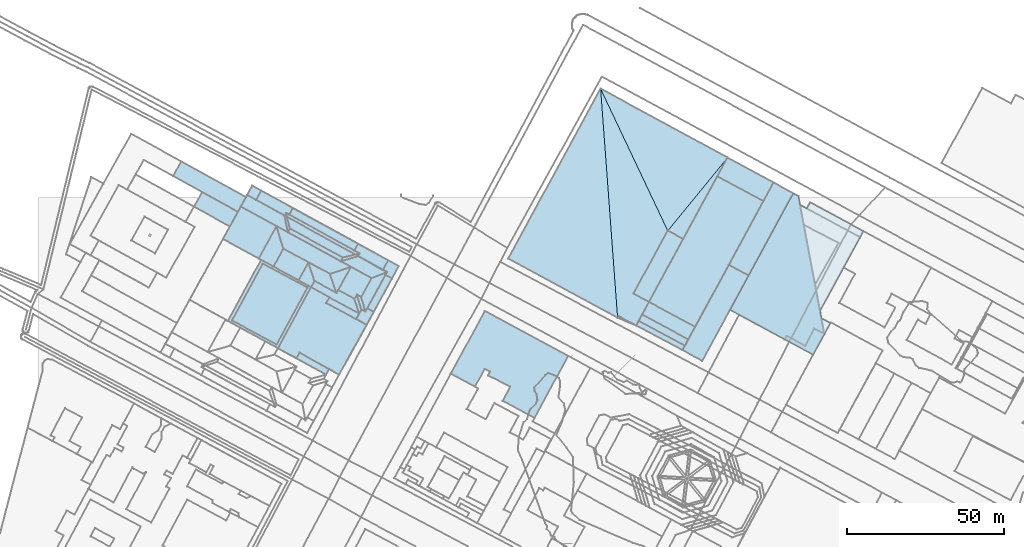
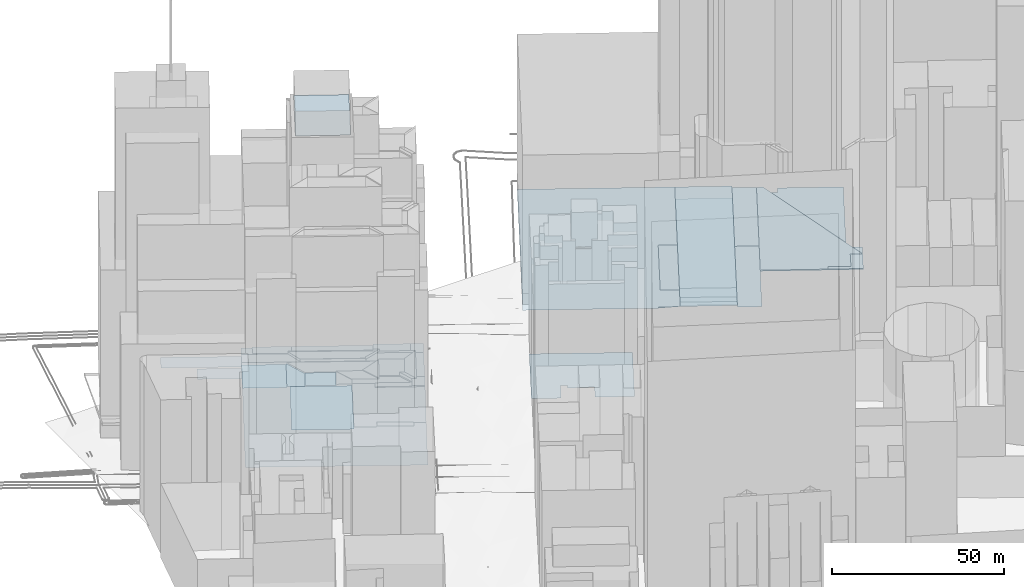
# Not in any storey, part 12 of 80: 45 footings.
"""IFC4 building model written with IfcOpenShell, lengths in metres."""

from ifc_helpers import new_model, si_unit, frame, origin_with_axes, place, context, subcontext, project, spatial, polygons, element, save


model = new_model("IFC4")

# Units and contexts
model_context = context("Model", 3, precision=1e-05, world=origin_with_axes())
body_context = subcontext(model_context, "Body", "Model", "MODEL_VIEW")
ifc_project = project(units=[si_unit("AREAUNIT", "SQUARE_METRE"), si_unit("LENGTHUNIT", "METRE")], contexts=[model_context])

# Sites, building
site_1_placement = place(None, origin_with_axes())
site_1 = spatial("IfcSite", under=ifc_project, at=site_1_placement, Name="Topoexport Site")
site_2_placement = place(site_1_placement, origin_with_axes())
site_2 = spatial("IfcSite", under=site_1, at=site_2_placement, Name="TPX_BATIMENTS")
building_1_placement = place(site_2_placement, frame((219.6501998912, 358.1121317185, 21.8344391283), z_axis=(0.0, 0.0, 1.0), x_axis=(1.0, 0.0, 0.0)))
building_1 = spatial("IfcBuilding", under=site_2, at=building_1_placement, Name="Batiment 239", CompositionType="ELEMENT")

# Footing
footing_1_placement = place(None, frame((219.6501998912, 358.1121317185, 21.8344391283), z_axis=(0.0, 0.0, 1.0), x_axis=(1.0, 0.0, 0.0)))
element("IfcFooting", 1, at=footing_1_placement, inside=building_1, Name="Sol 0", context=body_context, shape_type="Tessellation", body=[
    polygons([(0.0, 0.0, 0.0), (6.2692645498, -3.4020859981, 0.0), (20.4756016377, 22.7535668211, 0.0), (14.1893424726, 26.1665450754, 0.0)], [[[2, 1, 4]], [[4, 3, 2]]]),
])

# Building
building_2_placement = place(site_2_placement, frame((237.4075822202, 334.4377302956, 21.8574343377), z_axis=(0.0, 0.0, 1.0), x_axis=(1.0, 0.0, 0.0)))
building_2 = spatial("IfcBuilding", under=site_2, at=building_2_placement, Name="Batiment 247", CompositionType="ELEMENT")

# Footing
footing_2_placement = place(None, frame((237.4075822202, 334.4377302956, 21.8574343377), z_axis=(0.0, 0.0, 1.0), x_axis=(1.0, 0.0, 0.0)))
element("IfcFooting", 2, at=footing_2_placement, inside=building_2, Name="Sol 0", context=body_context, shape_type="Tessellation", body=[
    polygons([(0.0, 0.0, 0.0), (9.0722546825, -4.8904699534, 0.0), (12.6339095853, 1.6902007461, 0.0), (9.4062271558, 3.4068039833, 0.0), (6.507259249, -2.0892360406, 0.0), (0.6119191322, 1.095140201, 0.0)], [[[2, 1, 6]], [[4, 3, 2]], [[2, 6, 5]], [[5, 4, 2]]]),
])

# Building
building_3_placement = place(site_2_placement, frame((220.0023122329, 343.8054149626, 21.493715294), z_axis=(0.0, 0.0, 1.0), x_axis=(1.0, 0.0, 0.0)))
building_3 = spatial("IfcBuilding", under=site_2, at=building_3_placement, Name="Batiment 248", CompositionType="ELEMENT")

# Footing
footing_3_placement = place(None, frame((220.0023122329, 343.8054149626, 21.493715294), z_axis=(0.0, 0.0, 1.0), x_axis=(1.0, 0.0, 0.0)))
element("IfcFooting", 3, at=footing_3_placement, inside=building_3, Name="Sol 0", context=body_context, shape_type="Tessellation", body=[
    polygons([(0.0, 0.0, 0.0), (26.4775246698, -14.2581546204, 0.0), (31.9063663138, -4.1918534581, 0.0), (29.1545647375, -2.74727068, 0.0), (28.6785615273, -0.2881071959, 0.0), (42.4133124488, 25.0405352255, 0.0), (25.5002002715, 34.1918411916, 0.0), (24.4257112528, 32.2253420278, 0.0), (22.3276907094, 33.344465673, 0.0), (21.8057455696, 36.1250606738, 0.0), (20.1234892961, 37.0602835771, 0.0)], [[[2, 1, 11]], [[4, 3, 2]], [[7, 6, 5]], [[11, 10, 9]], [[4, 2, 11]], [[8, 7, 5]], [[5, 4, 11]], [[9, 8, 5]], [[5, 11, 9]]]),
])

# Building
building_4_placement = place(site_2_placement, frame((220.0023122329, 343.8054149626, 21.8574343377), z_axis=(0.0, 0.0, 1.0), x_axis=(1.0, 0.0, 0.0)))
building_4 = spatial("IfcBuilding", under=site_2, at=building_4_placement, Name="Batiment 249", CompositionType="ELEMENT")

# Footing
footing_4_placement = place(None, frame((220.0023122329, 343.8054149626, 21.8574343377), z_axis=(0.0, 0.0, 1.0), x_axis=(1.0, 0.0, 0.0)))
element("IfcFooting", 4, at=footing_4_placement, inside=building_4, Name="Sol 0", context=body_context, shape_type="Tessellation", body=[
    polygons([(0.0, 0.0, 0.0), (17.4052699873, -9.367684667, 0.0), (18.0171891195, -8.272544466, 0.0), (23.9125292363, -11.4569207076, 0.0), (26.8114971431, -5.9608806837, 0.0), (30.0391795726, -7.6774839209, 0.0), (21.8057455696, 36.1250606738, 0.0), (20.1234892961, 37.0602835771, 0.0)], [[[2, 1, 8]], [[5, 4, 3]], [[7, 6, 5]], [[2, 8, 7]], [[7, 5, 3]], [[3, 2, 7]]]),
])

# Building
building_5_placement = place(site_2_placement, frame((194.2357723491, 346.2924328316, 22.8993147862), z_axis=(0.0, 0.0, 1.0), x_axis=(1.0, 0.0, 0.0)))
building_5 = spatial("IfcBuilding", under=site_2, at=building_5_placement, Name="Batiment 250", CompositionType="ELEMENT")

# Footing
footing_5_placement = place(None, frame((194.2357723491, 346.2924328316, 22.8993147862), z_axis=(0.0, 0.0, 1.0), x_axis=(1.0, 0.0, 0.0)))
element("IfcFooting", 5, at=footing_5_placement, inside=building_5, Name="Sol 0", context=body_context, shape_type="Tessellation", body=[
    polygons([(0.0, 0.0, 0.0), (14.695507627, -7.911555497, 0.0), (36.3976918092, 32.0425454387, 0.0), (21.7021083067, 39.9651582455, 0.0)], [[[2, 1, 4]], [[4, 3, 2]]]),
])

# Building
building_6_placement = place(site_2_placement, frame((189.3088417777, 348.9551990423, 22.410062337), z_axis=(0.0, 0.0, 1.0), x_axis=(1.0, 0.0, 0.0)))
building_6 = spatial("IfcBuilding", under=site_2, at=building_6_placement, Name="Batiment 251", CompositionType="ELEMENT")

# Footing
footing_6_placement = place(None, frame((189.3088417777, 348.9551990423, 22.410062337), z_axis=(0.0, 0.0, 1.0), x_axis=(1.0, 0.0, 0.0)))
element("IfcFooting", 6, at=footing_6_placement, inside=building_6, Name="Sol 0", context=body_context, shape_type="Tessellation", body=[
    polygons([(0.0, 0.0, 0.0), (4.9269305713, -2.6627662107, 0.0), (0.8608347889, -10.1485570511, 0.0), (15.5890804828, -17.9709220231, 0.0), (44.530700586, 35.3234777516, 0.0), (29.8769383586, 43.2798772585, 0.0), (15.8109363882, 17.3923517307, 0.0), (10.8841438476, 20.0440098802, 0.0)], [[[2, 1, 8]], [[4, 3, 2]], [[6, 5, 4]], [[2, 8, 7]], [[6, 4, 2]], [[2, 7, 6]]]),
])

# Building
building_7_placement = place(site_2_placement, frame((189.3088417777, 348.9551990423, 22.410062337), z_axis=(0.0, 0.0, 1.0), x_axis=(1.0, 0.0, 0.0)))
building_7 = spatial("IfcBuilding", under=site_2, at=building_7_placement, Name="Batiment 252", CompositionType="ELEMENT")

# Footing
footing_7_placement = place(None, frame((189.3088417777, 348.9551990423, 22.410062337), z_axis=(0.0, 0.0, 1.0), x_axis=(1.0, 0.0, 0.0)))
element("IfcFooting", 7, at=footing_7_placement, inside=building_7, Name="Sol 0", context=body_context, shape_type="Tessellation", body=[
    polygons([(0.0, 0.0, 0.0), (4.9269305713, -2.6627662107, 0.0), (15.8109363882, 17.3923517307, 0.0), (10.8841438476, 20.0440098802, 0.0)], [[[2, 1, 4]], [[4, 3, 2]]]),
])

# Building
building_8_placement = place(site_2_placement, frame((192.0622109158, 342.2925513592, 22.833956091), z_axis=(0.0, 0.0, 1.0), x_axis=(1.0, 0.0, 0.0)))
building_8 = spatial("IfcBuilding", under=site_2, at=building_8_placement, Name="Batiment 253", CompositionType="ELEMENT")

# Footing
footing_8_placement = place(None, frame((192.0622109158, 342.2925513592, 22.833956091), z_axis=(0.0, 0.0, 1.0), x_axis=(1.0, 0.0, 0.0)))
element("IfcFooting", 8, at=footing_8_placement, inside=building_8, Name="Sol 0", context=body_context, shape_type="Tessellation", body=[
    polygons([(0.0, 0.0, 0.0), (14.6956420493, -7.9226606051, 0.0), (16.8690690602, -3.9116740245, 0.0), (2.1735614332, 3.9998814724, 0.0)], [[[2, 1, 4]], [[4, 3, 2]]]),
])

# Building
building_9_placement = place(site_2_placement, frame((190.971338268, 340.2814610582, 22.7953305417), z_axis=(0.0, 0.0, 1.0), x_axis=(1.0, 0.0, 0.0)))
building_9 = spatial("IfcBuilding", under=site_2, at=building_9_placement, Name="Batiment 254", CompositionType="ELEMENT")

# Footing
footing_9_placement = place(None, frame((190.971338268, 340.2814610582, 22.7953305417), z_axis=(0.0, 0.0, 1.0), x_axis=(1.0, 0.0, 0.0)))
element("IfcFooting", 9, at=footing_9_placement, inside=building_9, Name="Sol 0", context=body_context, shape_type="Tessellation", body=[
    polygons([(0.0, 0.0, 0.0), (14.6956447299, -7.9226627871, 0.0), (15.7865146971, -5.9115703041, 0.0), (1.0908726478, 2.011090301, 0.0)], [[[2, 1, 4]], [[4, 3, 2]]]),
])

# Building
building_10_placement = place(site_2_placement, frame((190.1696765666, 338.8066419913, 22.7695470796), z_axis=(0.0, 0.0, 1.0), x_axis=(1.0, 0.0, 0.0)))
building_10 = spatial("IfcBuilding", under=site_2, at=building_10_placement, Name="Batiment 255", CompositionType="ELEMENT")

# Footing
footing_10_placement = place(None, frame((190.1696765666, 338.8066419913, 22.7695470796), z_axis=(0.0, 0.0, 1.0), x_axis=(1.0, 0.0, 0.0)))
element("IfcFooting", 10, at=footing_10_placement, inside=building_10, Name="Sol 0", context=body_context, shape_type="Tessellation", body=[
    polygons([(0.0, 0.0, 0.0), (14.728245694, -7.822364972, 0.0), (15.4973064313, -6.4478437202, 0.0), (0.8016617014, 1.4748190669, 0.0)], [[[2, 1, 4]], [[4, 3, 2]]]),
])

# Building
building_11_placement = place(site_2_placement, frame((204.8979222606, 330.9842770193, 21.8344391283), z_axis=(0.0, 0.0, 1.0), x_axis=(1.0, 0.0, 0.0)))
building_11 = spatial("IfcBuilding", under=site_2, at=building_11_placement, Name="Batiment 256", CompositionType="ELEMENT")

# Footing
footing_11_placement = place(None, frame((204.8979222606, 330.9842770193, 21.8344391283), z_axis=(0.0, 0.0, 1.0), x_axis=(1.0, 0.0, 0.0)))
element("IfcFooting", 11, at=footing_11_placement, inside=building_11, Name="Sol 0", context=body_context, shape_type="Tessellation", body=[
    polygons([(0.0, 0.0, 0.0), (6.2862894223, -3.4130030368, 0.0), (21.0215421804, 23.7257687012, 0.0), (14.7522776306, 27.1278546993, 0.0)], [[[2, 1, 4]], [[4, 3, 2]]]),
])

# Building
building_12_placement = place(site_2_placement, frame((131.2414210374, 323.4889407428, 19.5874307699), z_axis=(0.0, 0.0, 1.0), x_axis=(1.0, 0.0, 0.0)))
building_12 = spatial("IfcBuilding", under=site_2, at=building_12_placement, Name="Batiment 257", CompositionType="ELEMENT")

# Footing
footing_12_placement = place(None, frame((131.2414210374, 323.4889407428, 19.5874307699), z_axis=(0.0, 0.0, 1.0), x_axis=(1.0, 0.0, 0.0)))
element("IfcFooting", 12, at=footing_12_placement, inside=building_12, Name="Sol 0", context=body_context, shape_type="Tessellation", body=[
    polygons([(0.0, 0.0, 0.0), (7.6623465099, -4.1520283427, 0.0), (10.7530705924, 1.557139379, 0.0), (12.4605179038, 0.6332892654, 0.0), (11.7910505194, -0.5957385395, 0.0), (18.9140593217, -4.0989897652, 0.0), (16.4763130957, -8.6126311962, 0.0), (26.6105246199, -14.0903890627, 0.0), (37.2957336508, 5.6514960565, 0.0), (10.8174622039, 19.9876323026, 0.0)], [[[2, 1, 10]], [[6, 5, 4]], [[8, 7, 6]], [[10, 9, 8]], [[3, 2, 10]], [[10, 8, 6]], [[4, 3, 10]], [[10, 6, 4]]]),
])

# Building
building_13_placement = place(site_2_placement, frame((149.4964624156, 360.1164702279, 22.410062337), z_axis=(0.0, 0.0, 1.0), x_axis=(1.0, 0.0, 0.0)))
building_13 = spatial("IfcBuilding", under=site_2, at=building_13_placement, Name="Batiment 258", CompositionType="ELEMENT")

# Footing
footing_13_placement = place(None, frame((149.4964624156, 360.1164702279, 22.410062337), z_axis=(0.0, 0.0, 1.0), x_axis=(1.0, 0.0, 0.0)))
element("IfcFooting", 13, at=footing_13_placement, inside=building_13, Name="Sol 0", context=body_context, shape_type="Tessellation", body=[
    polygons([(0.0, 0.0, 0.0), (34.744220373, -18.8585502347, 0.0), (40.6732141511, -21.3098282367, 0.0), (44.7393099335, -13.8240373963, 0.0), (39.8123793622, -11.1612711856, 0.0), (50.6965232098, 8.8827386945, 0.0), (55.6233157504, 6.2310805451, 0.0), (69.6893177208, 32.1186060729, 0.0), (29.3384984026, 54.0315411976, 0.0)], [[[2, 1, 9]], [[4, 3, 2]], [[8, 7, 6]], [[5, 4, 2]], [[9, 8, 6]], [[5, 2, 9]], [[9, 6, 5]]]),
])

# Building
building_14_placement = place(site_2_placement, frame((149.4964624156, 360.1164702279, 22.410062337), z_axis=(0.0, 0.0, 1.0), x_axis=(1.0, 0.0, 0.0)))
building_14 = spatial("IfcBuilding", under=site_2, at=building_14_placement, Name="Batiment 259", CompositionType="ELEMENT")

# Footing
footing_14_placement = place(None, frame((149.4964624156, 360.1164702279, 22.410062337), z_axis=(0.0, 0.0, 1.0), x_axis=(1.0, 0.0, 0.0)))
element("IfcFooting", 14, at=footing_14_placement, inside=building_14, Name="Sol 0", context=body_context, shape_type="Tessellation", body=[
    polygons([(0.0, 0.0, 0.0), (34.744220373, -18.8585502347, 0.0), (35.0417433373, -18.3110805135, 0.0), (40.6732141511, -21.3098282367, 0.0), (44.7393099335, -13.8240373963, 0.0), (39.8123793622, -11.1612711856, 0.0), (50.6965232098, 8.8827386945, 0.0), (55.6233157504, 6.2310805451, 0.0), (69.6893177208, 32.1186060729, 0.0), (29.3384984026, 54.0315411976, 0.0)], [[[2, 1, 10]], [[5, 4, 3]], [[9, 8, 7]], [[3, 2, 10]], [[6, 5, 3]], [[10, 9, 7]], [[6, 3, 10]], [[10, 7, 6]]]),
])

# Building
building_15_placement = place(site_2_placement, frame((96.2081885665, 359.2420118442, 24.1378546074), z_axis=(0.0, 0.0, 1.0), x_axis=(1.0, 0.0, 0.0)))
building_15 = spatial("IfcBuilding", under=site_2, at=building_15_placement, Name="Batiment 275", CompositionType="ELEMENT")

# Footing
footing_15_placement = place(None, frame((96.2081885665, 359.2420118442, 24.1378546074), z_axis=(0.0, 0.0, 1.0), x_axis=(1.0, 0.0, 0.0)))
element("IfcFooting", 15, at=footing_15_placement, inside=building_15, Name="Sol 0", context=body_context, shape_type="Tessellation", body=[
    polygons([(0.0, 0.0, 0.0), (5.476758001, 1.5957227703, 0.0), (5.9728530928, 2.4896654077, 0.0), (0.6444088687, 1.2065279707, 0.0)], [[[2, 1, 4]], [[4, 3, 2]]]),
])

# Building
building_16_placement = place(site_2_placement, frame((100.5582678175, 362.6343155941, 24.249661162), z_axis=(0.0, 0.0, 1.0), x_axis=(1.0, 0.0, 0.0)))
building_16 = spatial("IfcBuilding", under=site_2, at=building_16_placement, Name="Batiment 276", CompositionType="ELEMENT")

# Footing
footing_16_placement = place(None, frame((100.5582678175, 362.6343155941, 24.249661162), z_axis=(0.0, 0.0, 1.0), x_axis=(1.0, 0.0, 0.0)))
element("IfcFooting", 16, at=footing_16_placement, inside=building_16, Name="Sol 0", context=body_context, shape_type="Tessellation", body=[
    polygons([(0.0, 0.0, 0.0), (1.6227738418, -0.9026383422, 0.0), (1.12667875, -1.7965809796, 0.0), (9.0533233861, -6.1787158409, 0.0), (10.7731599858, -3.0834129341, 0.0), (1.1989392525, 2.1566610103, 0.0)], [[[2, 1, 6]], [[4, 3, 2]], [[6, 5, 4]], [[4, 2, 6]]]),
])

# Building
building_17_placement = place(site_2_placement, frame((95.4278204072, 350.1179975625, 24.1757851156), z_axis=(0.0, 0.0, 1.0), x_axis=(1.0, 0.0, 0.0)))
building_17 = spatial("IfcBuilding", under=site_2, at=building_17_placement, Name="Batiment 277", CompositionType="ELEMENT")

# Footing
footing_17_placement = place(None, frame((95.4278204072, 350.1179975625, 24.1757851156), z_axis=(0.0, 0.0, 1.0), x_axis=(1.0, 0.0, 0.0)))
element("IfcFooting", 17, at=footing_17_placement, inside=building_17, Name="Sol 0", context=body_context, shape_type="Tessellation", body=[
    polygons([(0.0, 0.0, 0.0), (5.1904741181, -2.8263004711, 0.0), (5.942800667, -1.4630871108, 0.0), (7.3274473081, -2.2130597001, 0.0), (10.6093444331, 3.7536652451, 0.0), (4.0340988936, 7.3410355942, 0.0)], [[[2, 1, 6]], [[5, 4, 3]], [[3, 2, 6]], [[6, 5, 3]]]),
])

# Building
building_18_placement = place(site_2_placement, frame((100.6182945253, 347.2916970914, 24.2468793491), z_axis=(0.0, 0.0, 1.0), x_axis=(1.0, 0.0, 0.0)))
building_18 = spatial("IfcBuilding", under=site_2, at=building_18_placement, Name="Batiment 278", CompositionType="ELEMENT")

# Footing
footing_18_placement = place(None, frame((100.6182945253, 347.2916970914, 24.2468793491), z_axis=(0.0, 0.0, 1.0), x_axis=(1.0, 0.0, 0.0)))
element("IfcFooting", 18, at=footing_18_placement, inside=building_18, Name="Sol 0", context=body_context, shape_type="Tessellation", body=[
    polygons([(0.0, 0.0, 0.0), (1.4724916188, -4.6791504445, 0.0), (2.1913155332, -3.3385306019, 0.0), (0.7523265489, 1.3632133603, 0.0)], [[[2, 1, 4]], [[4, 3, 2]]]),
])

# Building
building_19_placement = place(site_2_placement, frame((101.3706210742, 348.6549104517, 24.232721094), z_axis=(0.0, 0.0, 1.0), x_axis=(1.0, 0.0, 0.0)))
building_19 = spatial("IfcBuilding", under=site_2, at=building_19_placement, Name="Batiment 279", CompositionType="ELEMENT")

# Footing
footing_19_placement = place(None, frame((101.3706210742, 348.6549104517, 24.232721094), z_axis=(0.0, 0.0, 1.0), x_axis=(1.0, 0.0, 0.0)))
element("IfcFooting", 19, at=footing_19_placement, inside=building_19, Name="Sol 0", context=body_context, shape_type="Tessellation", body=[
    polygons([(0.0, 0.0, 0.0), (1.4389889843, -4.7017439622, 0.0), (2.7214517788, -5.3751874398, 0.0), (1.3846466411, -0.7499725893, 0.0)], [[[2, 1, 4]], [[4, 3, 2]]]),
])

# Building
building_20_placement = place(site_2_placement, frame((104.621027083, 344.2517632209, 24.2058781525), z_axis=(0.0, 0.0, 1.0), x_axis=(1.0, 0.0, 0.0)))
building_20 = spatial("IfcBuilding", under=site_2, at=building_20_placement, Name="Batiment 280", CompositionType="ELEMENT")

# Footing
footing_20_placement = place(None, frame((104.621027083, 344.2517632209, 24.2058781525), z_axis=(0.0, 0.0, 1.0), x_axis=(1.0, 0.0, 0.0)))
element("IfcFooting", 20, at=footing_20_placement, inside=building_20, Name="Sol 0", context=body_context, shape_type="Tessellation", body=[
    polygons([(0.0, 0.0, 0.0), (2.0982656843, -1.14136393, 0.0), (7.8835058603, 9.5062875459, 0.0), (5.7938113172, 10.6366471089, 0.0)], [[[2, 1, 4]], [[4, 3, 2]]]),
])

# Building
building_21_placement = place(site_2_placement, frame((102.7552677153, 347.9049378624, 24.232721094), z_axis=(0.0, 0.0, 1.0), x_axis=(1.0, 0.0, 0.0)))
building_21 = spatial("IfcBuilding", under=site_2, at=building_21_placement, Name="Batiment 281", CompositionType="ELEMENT")

# Footing
footing_21_placement = place(None, frame((102.7552677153, 347.9049378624, 24.232721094), z_axis=(0.0, 0.0, 1.0), x_axis=(1.0, 0.0, 0.0)))
element("IfcFooting", 21, at=footing_21_placement, inside=building_21, Name="Sol 0", context=body_context, shape_type="Tessellation", body=[
    polygons([(0.0, 0.0, 0.0), (1.3368051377, -4.6252148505, 0.0), (8.1803409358, 7.9332136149, 0.0), (3.281897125, 5.9667249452, 0.0)], [[[2, 1, 4]], [[4, 3, 2]]]),
])

# Building
building_22_placement = place(site_2_placement, frame((109.6115912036, 356.4555997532, 24.2810848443), z_axis=(0.0, 0.0, 1.0), x_axis=(1.0, 0.0, 0.0)))
building_22 = spatial("IfcBuilding", under=site_2, at=building_22_placement, Name="Batiment 282", CompositionType="ELEMENT")

# Footing
footing_22_placement = place(None, frame((109.6115912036, 356.4555997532, 24.2810848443), z_axis=(0.0, 0.0, 1.0), x_axis=(1.0, 0.0, 0.0)))
element("IfcFooting", 22, at=footing_22_placement, inside=building_22, Name="Sol 0", context=body_context, shape_type="Tessellation", body=[
    polygons([(0.0, 0.0, 0.0), (1.3240174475, -0.6174482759, 0.0), (0.8032471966, -1.5671894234, 0.0), (2.8929417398, -2.6975489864, 0.0), (5.0500484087, 1.268810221, 0.0), (1.7198365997, 3.0953029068, 0.0)], [[[2, 1, 6]], [[4, 3, 2]], [[6, 5, 4]], [[4, 2, 6]]]),
])

# Building
building_23_placement = place(site_2_placement, frame((101.1237847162, 340.8360563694, 24.2058781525), z_axis=(0.0, 0.0, 1.0), x_axis=(1.0, 0.0, 0.0)))
building_23 = spatial("IfcBuilding", under=site_2, at=building_23_placement, Name="Batiment 283", CompositionType="ELEMENT")

# Footing
footing_23_placement = place(None, frame((101.1237847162, 340.8360563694, 24.2058781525), z_axis=(0.0, 0.0, 1.0), x_axis=(1.0, 0.0, 0.0)))
element("IfcFooting", 23, at=footing_23_placement, inside=building_23, Name="Sol 0", context=body_context, shape_type="Tessellation", body=[
    polygons([(0.0, 0.0, 0.0), (3.3638492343, -1.8150044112, 0.0), (5.5955080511, 2.2743429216, 0.0), (3.4972423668, 3.4157068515, 0.0), (2.9682881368, 2.4436666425, 0.0), (1.6858253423, 3.1171101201, 0.0)], [[[2, 1, 6]], [[4, 3, 2]], [[2, 6, 5]], [[5, 4, 2]]]),
])

# Building
building_24_placement = place(site_2_placement, frame((76.2199031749, 331.5540131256, 23.8161532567), z_axis=(0.0, 0.0, 1.0), x_axis=(1.0, 0.0, 0.0)))
building_24 = spatial("IfcBuilding", under=site_2, at=building_24_placement, Name="Batiment 284", CompositionType="ELEMENT")

# Footing
footing_24_placement = place(None, frame((76.2199031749, 331.5540131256, 23.8161532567), z_axis=(0.0, 0.0, 1.0), x_axis=(1.0, 0.0, 0.0)))
element("IfcFooting", 24, at=footing_24_placement, inside=building_24, Name="Sol 0", context=body_context, shape_type="Tessellation", body=[
    polygons([(0.0, 0.0, 0.0), (5.886443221, -3.1512997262, 0.0), (6.870460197, -1.3857167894, 0.0), (19.4873212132, -8.4001453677, 0.0), (28.2677307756, 7.4670388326, 0.0), (15.4237759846, 14.4122011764, 0.0), (16.3907789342, 16.1886902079, 0.0), (10.5539558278, 19.4293756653, 0.0)], [[[2, 1, 8]], [[5, 4, 3]], [[8, 7, 6]], [[3, 2, 8]], [[6, 5, 3]], [[3, 8, 6]]]),
])

# Building
building_25_placement = place(site_2_placement, frame((91.6436791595, 345.966214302, 24.0394007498), z_axis=(0.0, 0.0, 1.0), x_axis=(1.0, 0.0, 0.0)))
building_25 = spatial("IfcBuilding", under=site_2, at=building_25_placement, Name="Batiment 285", CompositionType="ELEMENT")

# Footing
footing_25_placement = place(None, frame((91.6436791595, 345.966214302, 24.0394007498), z_axis=(0.0, 0.0, 1.0), x_axis=(1.0, 0.0, 0.0)))
element("IfcFooting", 25, at=footing_25_placement, inside=building_25, Name="Sol 0", context=body_context, shape_type="Tessellation", body=[
    polygons([(0.0, 0.0, 0.0), (9.4801055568, -5.1301579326, 0.0), (10.4471069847, -3.353667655, 0.0), (0.9670029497, 1.7764890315, 0.0)], [[[2, 1, 4]], [[4, 3, 2]]]),
])

# Building
building_26_placement = place(site_2_placement, frame((86.7738590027, 350.9833887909, 23.8161532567), z_axis=(0.0, 0.0, 1.0), x_axis=(1.0, 0.0, 0.0)))
building_26 = spatial("IfcBuilding", under=site_2, at=building_26_placement, Name="Batiment 286", CompositionType="ELEMENT")

# Footing
footing_26_placement = place(None, frame((86.7738590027, 350.9833887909, 23.8161532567), z_axis=(0.0, 0.0, 1.0), x_axis=(1.0, 0.0, 0.0)))
element("IfcFooting", 26, at=footing_26_placement, inside=building_26, Name="Sol 0", context=body_context, shape_type="Tessellation", body=[
    polygons([(0.0, 0.0, 0.0), (5.8368231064, -3.2406854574, 0.0), (15.3169271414, -8.3708421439, 0.0), (13.8444355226, -3.6916916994, 0.0), (8.6539614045, -0.8653912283, 0.0), (8.1165662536, -1.8375288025, 0.0), (1.1079080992, 2.0001698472, 0.0)], [[[2, 1, 7]], [[4, 3, 2]], [[6, 5, 4]], [[2, 7, 6]], [[6, 4, 2]]]),
])

# Building
building_27_placement = place(site_2_placement, frame((92.8106246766, 355.2390469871, 24.0480155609), z_axis=(0.0, 0.0, 1.0), x_axis=(1.0, 0.0, 0.0)))
building_27 = spatial("IfcBuilding", under=site_2, at=building_27_placement, Name="Batiment 287", CompositionType="ELEMENT")

# Footing
footing_27_placement = place(None, frame((92.8106246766, 355.2390469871, 24.0480155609), z_axis=(0.0, 0.0, 1.0), x_axis=(1.0, 0.0, 0.0)))
element("IfcFooting", 27, at=footing_27_placement, inside=building_27, Name="Sol 0", context=body_context, shape_type="Tessellation", body=[
    polygons([(0.0, 0.0, 0.0), (2.0798005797, -6.0931869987, 0.0), (6.6512946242, 2.2199861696, 0.0)], [[[2, 1, 3]]]),
])

# Building
building_28_placement = place(site_2_placement, frame((79.4722561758, 368.4179540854, 23.5718630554), z_axis=(0.0, 0.0, 1.0), x_axis=(1.0, 0.0, 0.0)))
building_28 = spatial("IfcBuilding", under=site_2, at=building_28_placement, Name="Batiment 288", CompositionType="ELEMENT")

# Footing
footing_28_placement = place(None, frame((79.4722561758, 368.4179540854, 23.5718630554), z_axis=(0.0, 0.0, 1.0), x_axis=(1.0, 0.0, 0.0)))
element("IfcFooting", 28, at=footing_28_placement, inside=building_28, Name="Sol 0", context=body_context, shape_type="Tessellation", body=[
    polygons([(0.0, 0.0, 0.0), (16.7359323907, -9.1759422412, 0.0), (17.3803412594, -7.9694142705, 0.0), (0.6023388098, 1.1949356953, 0.0)], [[[2, 1, 4]], [[4, 3, 2]]]),
])

# Building
building_29_placement = place(site_2_placement, frame((75.8192697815, 370.4183503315, 23.455162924), z_axis=(0.0, 0.0, 1.0), x_axis=(1.0, 0.0, 0.0)))
building_29 = spatial("IfcBuilding", under=site_2, at=building_29_placement, Name="Batiment 289", CompositionType="ELEMENT")

# Footing
footing_29_placement = place(None, frame((75.8192697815, 370.4183503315, 23.455162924), z_axis=(0.0, 0.0, 1.0), x_axis=(1.0, 0.0, 0.0)))
element("IfcFooting", 29, at=footing_29_placement, inside=building_29, Name="Sol 0", context=body_context, shape_type="Tessellation", body=[
    polygons([(0.0, 0.0, 0.0), (2.1596786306, -7.1580802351, 0.0), (16.9913548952, -15.1793033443, 0.0), (23.6426495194, -12.9593171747, 0.0)], [[[2, 1, 4]], [[4, 3, 2]]]),
])

# Building
building_30_placement = place(site_2_placement, frame((85.9220693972, 358.9116084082, 23.7825598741), z_axis=(0.0, 0.0, 1.0), x_axis=(1.0, 0.0, 0.0)))
building_30 = spatial("IfcBuilding", under=site_2, at=building_30_placement, Name="Batiment 290", CompositionType="ELEMENT")

# Footing
footing_30_placement = place(None, frame((85.9220693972, 358.9116084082, 23.7825598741), z_axis=(0.0, 0.0, 1.0), x_axis=(1.0, 0.0, 0.0)))
element("IfcFooting", 30, at=footing_30_placement, inside=building_30, Name="Sol 0", context=body_context, shape_type="Tessellation", body=[
    polygons([(0.0, 0.0, 0.0), (1.9596977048, -5.9280497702, 0.0), (8.9683558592, -9.7657484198, 0.0), (6.8885552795, -3.6725614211, 0.0)], [[[2, 1, 4]], [[4, 3, 2]]]),
])

# Building
building_31_placement = place(site_2_placement, frame((82.7722366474, 353.201778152, 23.6513045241), z_axis=(0.0, 0.0, 1.0), x_axis=(1.0, 0.0, 0.0)))
building_31 = spatial("IfcBuilding", under=site_2, at=building_31_placement, Name="Batiment 291", CompositionType="ELEMENT")

# Footing
footing_31_placement = place(None, frame((82.7722366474, 353.201778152, 23.6513045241), z_axis=(0.0, 0.0, 1.0), x_axis=(1.0, 0.0, 0.0)))
element("IfcFooting", 31, at=footing_31_placement, inside=building_31, Name="Sol 0", context=body_context, shape_type="Tessellation", body=[
    polygons([(0.0, 0.0, 0.0), (4.0016223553, -2.2183893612, 0.0), (5.1095304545, -0.218219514, 0.0), (3.1498327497, 5.7098302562, 0.0)], [[[2, 1, 4]], [[4, 3, 2]]]),
])

# Building
building_32_placement = place(site_2_placement, frame((74.8292405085, 357.53934249, 23.2877785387), z_axis=(0.0, 0.0, 1.0), x_axis=(1.0, 0.0, 0.0)))
building_32 = spatial("IfcBuilding", under=site_2, at=building_32_placement, Name="Batiment 292", CompositionType="ELEMENT")

# Footing
footing_32_placement = place(None, frame((74.8292405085, 357.53934249, 23.2877785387), z_axis=(0.0, 0.0, 1.0), x_axis=(1.0, 0.0, 0.0)))
element("IfcFooting", 32, at=footing_32_placement, inside=building_32, Name="Sol 0", context=body_context, shape_type="Tessellation", body=[
    polygons([(0.0, 0.0, 0.0), (7.9429961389, -4.337564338, 0.0), (11.0928288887, 1.3722659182, 0.0), (3.1497079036, 5.7209276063, 0.0)], [[[2, 1, 4]], [[4, 3, 2]]]),
])

# Building
building_33_placement = place(site_2_placement, frame((38.8830888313, 330.1657711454, 23.4054188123), z_axis=(0.0, 0.0, 1.0), x_axis=(1.0, 0.0, 0.0)))
building_33 = spatial("IfcBuilding", under=site_2, at=building_33_placement, Name="Batiment 293", CompositionType="ELEMENT")

# Footing
footing_33_placement = place(None, frame((38.8830888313, 330.1657711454, 23.4054188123), z_axis=(0.0, 0.0, 1.0), x_axis=(1.0, 0.0, 0.0)))
element("IfcFooting", 33, at=footing_33_placement, inside=building_33, Name="Sol 0", context=body_context, shape_type="Tessellation", body=[
    polygons([(0.0, 0.0, 0.0), (46.6647208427, -25.5263239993, 0.0), (75.778550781, 27.5586388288, 0.0), (29.2065067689, 53.1191580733, 0.0)], [[[2, 1, 4]], [[4, 3, 2]]]),
])

# Building
building_34_placement = place(site_2_placement, frame((61.6318682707, 340.3996652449, 127.1275293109), z_axis=(0.0, 0.0, 1.0), x_axis=(1.0, 0.0, 0.0)))
building_34 = spatial("IfcBuilding", under=site_2, at=building_34_placement, Name="Batiment 294", CompositionType="ELEMENT")

# Footing
footing_34_placement = place(None, frame((61.6318682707, 340.3996652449, 127.1275293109), z_axis=(0.0, 0.0, 1.0), x_axis=(1.0, 0.0, 0.0)))
element("IfcFooting", 34, at=footing_34_placement, inside=building_34, Name="Sol 0", context=body_context, shape_type="Tessellation", body=[
    polygons([(0.0, 0.0, 0.0), (14.1943048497, -7.651180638, 0.0), (24.0125535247, 10.4373802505, 0.0), (9.81827195, 18.0885419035, 0.0)], [[[2, 1, 4]], [[4, 3, 2]]]),
])

# Building
building_35_placement = place(site_2_placement, frame((60.3249272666, 340.2734696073, 23.0925662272), z_axis=(0.0, 0.0, 1.0), x_axis=(1.0, 0.0, 0.0)))
building_35 = spatial("IfcBuilding", under=site_2, at=building_35_placement, Name="Batiment 295", CompositionType="ELEMENT")

# Footing
footing_35_placement = place(None, frame((60.3249272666, 340.2734696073, 23.0925662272), z_axis=(0.0, 0.0, 1.0), x_axis=(1.0, 0.0, 0.0)))
element("IfcFooting", 35, at=footing_35_placement, inside=building_35, Name="Sol 0", context=body_context, shape_type="Tessellation", body=[
    polygons([(0.0, 0.0, 0.0), (15.8949759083, -8.7194564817, 0.0), (26.4489317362, 10.7099191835, 0.0), (10.5539835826, 19.4293528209, 0.0)], [[[2, 1, 4]], [[4, 3, 2]]]),
])

# Building
building_36_placement = place(site_2_placement, frame((70.1312780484, 360.1160272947, 23.0634036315), z_axis=(0.0, 0.0, 1.0), x_axis=(1.0, 0.0, 0.0)))
building_36 = spatial("IfcBuilding", under=site_2, at=building_36_placement, Name="Batiment 296", CompositionType="ELEMENT")

# Footing
footing_36_placement = place(None, frame((70.1312780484, 360.1160272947, 23.0634036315), z_axis=(0.0, 0.0, 1.0), x_axis=(1.0, 0.0, 0.0)))
element("IfcFooting", 36, at=footing_36_placement, inside=building_36, Name="Sol 0", context=body_context, shape_type="Tessellation", body=[
    polygons([(0.0, 0.0, 0.0), (4.6979624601, -2.5766848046, 0.0), (7.8476703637, 3.1442428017, 0.0), (5.6879917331, 10.3023230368, 0.0)], [[[2, 1, 4]], [[4, 3, 2]]]),
])

# Building
building_37_placement = place(site_2_placement, frame((42.8821759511, 386.3451752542, 23.3606694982), z_axis=(0.0, 0.0, 1.0), x_axis=(1.0, 0.0, 0.0)))
building_37 = spatial("IfcBuilding", under=site_2, at=building_37_placement, Name="Batiment 313", CompositionType="ELEMENT")

# Footing
footing_37_placement = place(None, frame((42.8821759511, 386.3451752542, 23.3606694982), z_axis=(0.0, 0.0, 1.0), x_axis=(1.0, 0.0, 0.0)))
element("IfcFooting", 37, at=footing_37_placement, inside=building_37, Name="Sol 0", context=body_context, shape_type="Tessellation", body=[
    polygons([(0.0, 0.0, 0.0), (20.6194143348, -11.4068981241, 0.0), (23.1902990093, -6.725205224, 0.0), (2.5966002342, 4.6486773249, 0.0)], [[[2, 1, 4]], [[4, 3, 2]]]),
])

# Building
building_38_placement = place(site_2_placement, frame((49.545894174, 376.5859303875, 22.872031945), z_axis=(0.0, 0.0, 1.0), x_axis=(1.0, 0.0, 0.0)))
building_38 = spatial("IfcBuilding", under=site_2, at=building_38_placement, Name="Batiment 314", CompositionType="ELEMENT")

# Footing
footing_38_placement = place(None, frame((49.545894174, 376.5859303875, 22.872031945), z_axis=(0.0, 0.0, 1.0), x_axis=(1.0, 0.0, 0.0)))
element("IfcFooting", 38, at=footing_38_placement, inside=building_38, Name="Sol 0", context=body_context, shape_type="Tessellation", body=[
    polygons([(0.0, 0.0, 0.0), (11.3929905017, -6.3070456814, 0.0), (13.9556961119, -1.6476532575, 0.0), (2.5882884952, 4.637480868, 0.0)], [[[2, 1, 4]], [[4, 3, 2]]]),
])

# Building
building_39_placement = place(site_2_placement, frame((58.756433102, 366.3122475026, 22.6869888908), z_axis=(0.0, 0.0, 1.0), x_axis=(1.0, 0.0, 0.0)))
building_39 = spatial("IfcBuilding", under=site_2, at=building_39_placement, Name="Batiment 315", CompositionType="ELEMENT")

# Footing
footing_39_placement = place(None, frame((58.756433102, 366.3122475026, 22.6869888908), z_axis=(0.0, 0.0, 1.0), x_axis=(1.0, 0.0, 0.0)))
element("IfcFooting", 39, at=footing_39_placement, inside=building_39, Name="Sol 0", context=body_context, shape_type="Tessellation", body=[
    polygons([(0.0, 0.0, 0.0), (11.3748449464, -6.196220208, 0.0), (17.0628366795, 4.1061028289, 0.0), (5.6791754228, 10.3355185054, 0.0)], [[[2, 1, 4]], [[4, 3, 2]]]),
])

# Building
building_40_placement = place(site_2_placement, frame((69.2904287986, 378.7358456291, 23.7854365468), z_axis=(0.0, 0.0, 1.0), x_axis=(1.0, 0.0, 0.0)))
building_40 = spatial("IfcBuilding", under=site_2, at=building_40_placement, Name="Batiment 316", CompositionType="ELEMENT")

# Footing
footing_40_placement = place(None, frame((69.2904287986, 378.7358456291, 23.7854365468), z_axis=(0.0, 0.0, 1.0), x_axis=(1.0, 0.0, 0.0)))
element("IfcFooting", 40, at=footing_40_placement, inside=building_40, Name="Sol 0", context=body_context, shape_type="Tessellation", body=[
    polygons([(0.0, 0.0, 0.0), (9.0394844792, -4.9909724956, 0.0), (9.5440215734, -4.0969334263, 0.0), (10.5380936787, -4.6516049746, 0.0), (11.6874272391, -2.5843414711, 0.0), (1.653744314, 2.9724011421, 0.0)], [[[2, 1, 6]], [[5, 4, 3]], [[3, 2, 6]], [[6, 5, 3]]]),
])

# Building
building_41_placement = place(site_2_placement, frame((78.3299132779, 373.7448731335, 23.5718630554), z_axis=(0.0, 0.0, 1.0), x_axis=(1.0, 0.0, 0.0)))
building_41 = spatial("IfcBuilding", under=site_2, at=building_41_placement, Name="Batiment 317", CompositionType="ELEMENT")

# Footing
footing_41_placement = place(None, frame((78.3299132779, 373.7448731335, 23.5718630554), z_axis=(0.0, 0.0, 1.0), x_axis=(1.0, 0.0, 0.0)))
element("IfcFooting", 41, at=footing_41_placement, inside=building_41, Name="Sol 0", context=body_context, shape_type="Tessellation", body=[
    polygons([(0.0, 0.0, 0.0), (1.1423428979, -5.3269190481, 0.0), (1.7446817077, -4.1319833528, 0.0), (0.5045370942, 0.8940390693, 0.0)], [[[2, 1, 4]], [[4, 3, 2]]]),
])

# Building
building_42_placement = place(site_2_placement, frame((64.4356085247, 376.647766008, 23.5361312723), z_axis=(0.0, 0.0, 1.0), x_axis=(1.0, 0.0, 0.0)))
building_42 = spatial("IfcBuilding", under=site_2, at=building_42_placement, Name="Batiment 318", CompositionType="ELEMENT")

# Footing
footing_42_placement = place(None, frame((64.4356085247, 376.647766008, 23.5361312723), z_axis=(0.0, 0.0, 1.0), x_axis=(1.0, 0.0, 0.0)))
element("IfcFooting", 42, at=footing_42_placement, inside=building_42, Name="Sol 0", context=body_context, shape_type="Tessellation", body=[
    polygons([(0.0, 0.0, 0.0), (41.6015563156, -22.7761032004, 0.0), (46.5000001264, -20.8096145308, 0.0), (2.0171223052, 3.6649587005, 0.0)], [[[2, 1, 4]], [[4, 3, 2]]]),
])

# Building
building_43_placement = place(site_2_placement, frame((78.834450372, 374.6389122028, 23.6117030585), z_axis=(0.0, 0.0, 1.0), x_axis=(1.0, 0.0, 0.0)))
building_43 = spatial("IfcBuilding", under=site_2, at=building_43_placement, Name="Batiment 319", CompositionType="ELEMENT")

# Footing
footing_43_placement = place(None, frame((78.834450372, 374.6389122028, 23.6117030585), z_axis=(0.0, 0.0, 1.0), x_axis=(1.0, 0.0, 0.0)))
element("IfcFooting", 43, at=footing_43_placement, inside=building_43, Name="Sol 0", context=body_context, shape_type="Tessellation", body=[
    polygons([(0.0, 0.0, 0.0), (1.2401446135, -5.0260224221, 0.0), (18.0181470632, -14.1903723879, 0.0), (23.3465912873, -12.9072349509, 0.0)], [[[2, 1, 4]], [[4, 3, 2]]]),
])

# Building
building_44_placement = place(site_2_placement, frame((79.8285224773, 374.0842406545, 23.8438960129), z_axis=(0.0, 0.0, 1.0), x_axis=(1.0, 0.0, 0.0)))
building_44 = spatial("IfcBuilding", under=site_2, at=building_44_placement, Name="Batiment 320", CompositionType="ELEMENT")

# Footing
footing_44_placement = place(None, frame((79.8285224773, 374.0842406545, 23.8438960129), z_axis=(0.0, 0.0, 1.0), x_axis=(1.0, 0.0, 0.0)))
element("IfcFooting", 44, at=footing_44_placement, inside=building_44, Name="Sol 0", context=body_context, shape_type="Tessellation", body=[
    polygons([(0.0, 0.0, 0.0), (20.7297453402, -11.4499250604, 0.0), (21.9286845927, -9.29326405, 0.0), (1.1493335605, 2.0672635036, 0.0)], [[[2, 1, 4]], [[4, 3, 2]]]),
])

# Building
building_45_placement = place(site_2_placement, frame((82.1063463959, 328.4027133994, 24.0355533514), z_axis=(0.0, 0.0, 1.0), x_axis=(1.0, 0.0, 0.0)))
building_45 = spatial("IfcBuilding", under=site_2, at=building_45_placement, Name="Batiment 324", CompositionType="ELEMENT")

# Footing
footing_45_placement = place(None, frame((82.1063463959, 328.4027133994, 24.0355533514), z_axis=(0.0, 0.0, 1.0), x_axis=(1.0, 0.0, 0.0)))
element("IfcFooting", 45, at=footing_45_placement, inside=building_45, Name="Sol 0", context=body_context, shape_type="Tessellation", body=[
    polygons([(0.0, 0.0, 0.0), (9.4221994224, -5.2307632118, 0.0), (10.4062149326, -3.465179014, 0.0), (0.984016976, 1.7655829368, 0.0)], [[[2, 1, 4]], [[4, 3, 2]]]),
])

save(model, "model.ifc")
